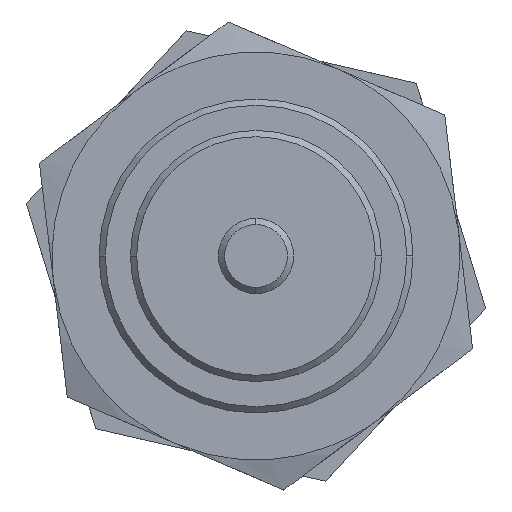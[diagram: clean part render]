
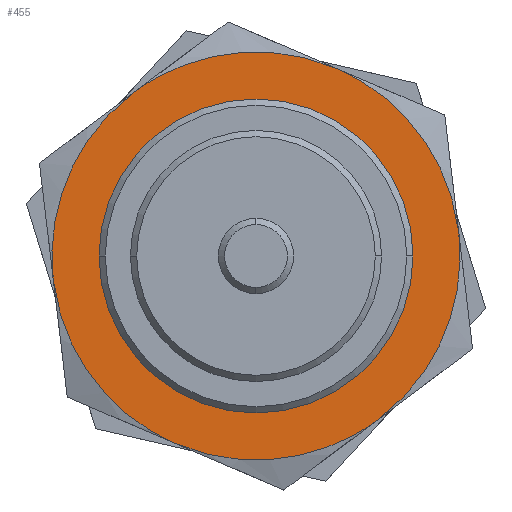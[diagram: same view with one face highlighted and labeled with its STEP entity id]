
A CAD part, left-side view. The second image highlights one B-rep face of the part: STEP entity #455.
In plain terms, the highlighted planar face has unit normal (-1, 0, 0) as drawn and (1, 0, 0) by its records, which use the part's own axes.
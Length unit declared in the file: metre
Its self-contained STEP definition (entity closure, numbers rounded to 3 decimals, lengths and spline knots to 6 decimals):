
#8 = CARTESIAN_POINT ( 'NONE',  ( 0.0015, -0.005629, -0.00325 ) ) ;
#14 = FACE_OUTER_BOUND ( 'NONE', #801, .T. ) ;
#45 = CARTESIAN_POINT ( 'NONE',  ( 0.0015, 0.005629, 0.00325 ) ) ;
#78 = CARTESIAN_POINT ( 'NONE',  ( 0.0015, 0.006819, 0.00119 ) ) ;
#79 = DIRECTION ( 'NONE',  ( 0., 0., -1. ) ) ;
#83 = CARTESIAN_POINT ( 'NONE',  ( 0.0015, 0.00444, -0.00531 ) ) ;
#92 = AXIS2_PLACEMENT_3D ( 'NONE', #229, #465, #698 ) ;
#113 = CARTESIAN_POINT ( 'NONE',  ( 0.0015, 0.005629, -0.00325 ) ) ;
#172 = ORIENTED_EDGE ( 'NONE', *, *, #508, .T. ) ;
#193 = CARTESIAN_POINT ( 'NONE',  ( 0.0015, 0.006819, -0.00119 ) ) ;
#194 = CARTESIAN_POINT ( 'NONE',  ( 0.0015, 0.004439, 0.005311 ) ) ;
#197 = CARTESIAN_POINT ( 'NONE',  ( 0.0015, 0.002379, -0.0065 ) ) ;
#219 = CIRCLE ( 'NONE', #92, 0.0045 ) ;
#229 = CARTESIAN_POINT ( 'NONE',  ( 0.0015, 0., 0. ) ) ;
#248 = VERTEX_POINT ( 'NONE', #45 ) ;
#258 =( BOUNDED_CURVE ( )  B_SPLINE_CURVE ( 3, ( #316, #193, #78, #896 ),
 .UNSPECIFIED., .F., .F. ) 
 B_SPLINE_CURVE_WITH_KNOTS ( ( 4, 4 ),
 ( 0., 0.00678 ),
 .UNSPECIFIED. ) 
 CURVE ( )  GEOMETRIC_REPRESENTATION_ITEM ( )  RATIONAL_B_SPLINE_CURVE ( ( 0.991, 0.902, 0.902, 0.991 ) ) 
 REPRESENTATION_ITEM ( '' )  );
#259 = VERTEX_POINT ( 'NONE', #271 ) ;
#271 = CARTESIAN_POINT ( 'NONE',  ( 0.0015, 0., -0.0045 ) ) ;
#291 = ORIENTED_EDGE ( 'NONE', *, *, #544, .F. ) ;
#316 = CARTESIAN_POINT ( 'NONE',  ( 0.0015, 0.005629, -0.00325 ) ) ;
#345 =( BOUNDED_CURVE ( )  B_SPLINE_CURVE ( 3, ( #1006, #197, #83, #785 ),
 .UNSPECIFIED., .F., .F. ) 
 B_SPLINE_CURVE_WITH_KNOTS ( ( 4, 4 ),
 ( 0., 0.00678 ),
 .UNSPECIFIED. ) 
 CURVE ( )  GEOMETRIC_REPRESENTATION_ITEM ( )  RATIONAL_B_SPLINE_CURVE ( ( 0.991, 0.902, 0.902, 0.991 ) ) 
 REPRESENTATION_ITEM ( '' )  );
#370 = EDGE_CURVE ( 'NONE', #996, #951, #1092, .T. ) ;
#371 = CARTESIAN_POINT ( 'NONE',  ( 0.0015, -0.005629, -0.00325 ) ) ;
#388 = EDGE_CURVE ( 'NONE', #951, #752, #345, .T. ) ;
#416 = EDGE_CURVE ( 'NONE', #752, #248, #258, .T. ) ;
#419 = PLANE ( 'NONE',  #573 ) ;
#429 =( BOUNDED_CURVE ( )  B_SPLINE_CURVE ( 3, ( #590, #1156, #710, #8 ),
 .UNSPECIFIED., .F., .T. ) 
 B_SPLINE_CURVE_WITH_KNOTS ( ( 4, 4 ),
 ( 0., 0.00678 ),
 .UNSPECIFIED. ) 
 CURVE ( )  GEOMETRIC_REPRESENTATION_ITEM ( )  RATIONAL_B_SPLINE_CURVE ( ( 0.991, 0.902, 0.902, 0.991 ) ) 
 REPRESENTATION_ITEM ( '' )  );
#455 = ADVANCED_FACE ( 'NONE', ( #941, #14 ), #419, .T. ) ;
#465 = DIRECTION ( 'NONE',  ( 1., 0., 0. ) ) ;
#488 = EDGE_CURVE ( 'NONE', #248, #1130, #863, .T. ) ;
#494 = EDGE_CURVE ( 'NONE', #1130, #563, #1221, .T. ) ;
#508 = EDGE_CURVE ( 'NONE', #563, #996, #429, .T. ) ;
#541 = CARTESIAN_POINT ( 'NONE',  ( 0.0015, 0.002378, 0.0065 ) ) ;
#544 = EDGE_CURVE ( 'NONE', #259, #679, #219, .T. ) ;
#551 = CARTESIAN_POINT ( 'NONE',  ( 0.0015, -0.002379, -0.0065 ) ) ;
#563 = VERTEX_POINT ( 'NONE', #1158 ) ;
#573 = AXIS2_PLACEMENT_3D ( 'NONE', #666, #886, #1114 ) ;
#585 = CARTESIAN_POINT ( 'NONE',  ( 0.0015, -0.005629, 0.00325 ) ) ;
#590 = CARTESIAN_POINT ( 'NONE',  ( 0.0015, -0.005629, 0.00325 ) ) ;
#597 = ORIENTED_EDGE ( 'NONE', *, *, #1091, .F. ) ;
#603 = CARTESIAN_POINT ( 'NONE',  ( 0.0015, 0., -0.0065 ) ) ;
#653 = CARTESIAN_POINT ( 'NONE',  ( 0.0015, 0., 0.0065 ) ) ;
#666 = CARTESIAN_POINT ( 'NONE',  ( 0.0015, -0.006578, 0.006578 ) ) ;
#679 = VERTEX_POINT ( 'NONE', #1187 ) ;
#698 = DIRECTION ( 'NONE',  ( 0., 0., -1. ) ) ;
#710 = CARTESIAN_POINT ( 'NONE',  ( 0.0015, -0.006819, -0.00119 ) ) ;
#752 = VERTEX_POINT ( 'NONE', #113 ) ;
#783 = DIRECTION ( 'NONE',  ( 1., 0., 0. ) ) ;
#785 = CARTESIAN_POINT ( 'NONE',  ( 0.0015, 0.005629, -0.00325 ) ) ;
#790 = ORIENTED_EDGE ( 'NONE', *, *, #370, .T. ) ;
#801 = EDGE_LOOP ( 'NONE', ( #1302, #172, #790, #1209, #875, #832 ) ) ;
#832 = ORIENTED_EDGE ( 'NONE', *, *, #488, .T. ) ;
#863 =( BOUNDED_CURVE ( )  B_SPLINE_CURVE ( 3, ( #992, #194, #541, #653 ),
 .UNSPECIFIED., .F., .F. ) 
 B_SPLINE_CURVE_WITH_KNOTS ( ( 4, 4 ),
 ( 0., 0.00678 ),
 .UNSPECIFIED. ) 
 CURVE ( )  GEOMETRIC_REPRESENTATION_ITEM ( )  RATIONAL_B_SPLINE_CURVE ( ( 0.991, 0.903, 0.903, 0.992 ) ) 
 REPRESENTATION_ITEM ( '' )  );
#875 = ORIENTED_EDGE ( 'NONE', *, *, #416, .T. ) ;
#886 = DIRECTION ( 'NONE',  ( 1., 0., 0. ) ) ;
#896 = CARTESIAN_POINT ( 'NONE',  ( 0.0015, 0.005629, 0.00325 ) ) ;
#936 = CARTESIAN_POINT ( 'NONE',  ( 0.0015, -0.00444, 0.00531 ) ) ;
#941 = FACE_BOUND ( 'NONE', #1014, .T. ) ;
#951 = VERTEX_POINT ( 'NONE', #603 ) ;
#992 = CARTESIAN_POINT ( 'NONE',  ( 0.0015, 0.005629, 0.00325 ) ) ;
#996 = VERTEX_POINT ( 'NONE', #371 ) ;
#1006 = CARTESIAN_POINT ( 'NONE',  ( 0.0015, 0., -0.0065 ) ) ;
#1014 = EDGE_LOOP ( 'NONE', ( #291, #597 ) ) ;
#1033 = CARTESIAN_POINT ( 'NONE',  ( 0.0015, -0.002379, 0.0065 ) ) ;
#1091 = EDGE_CURVE ( 'NONE', #679, #259, #1287, .T. ) ;
#1092 =( BOUNDED_CURVE ( )  B_SPLINE_CURVE ( 3, ( #1443, #1342, #551, #1238 ),
 .UNSPECIFIED., .F., .F. ) 
 B_SPLINE_CURVE_WITH_KNOTS ( ( 4, 4 ),
 ( 0., 0.00678 ),
 .UNSPECIFIED. ) 
 CURVE ( )  GEOMETRIC_REPRESENTATION_ITEM ( )  RATIONAL_B_SPLINE_CURVE ( ( 0.991, 0.902, 0.902, 0.991 ) ) 
 REPRESENTATION_ITEM ( '' )  );
#1104 = AXIS2_PLACEMENT_3D ( 'NONE', #1434, #783, #79 ) ;
#1114 = DIRECTION ( 'NONE',  ( 0., 0., -1. ) ) ;
#1130 = VERTEX_POINT ( 'NONE', #1337 ) ;
#1141 = CARTESIAN_POINT ( 'NONE',  ( 0.0015, 0., 0.0065 ) ) ;
#1156 = CARTESIAN_POINT ( 'NONE',  ( 0.0015, -0.006819, 0.00119 ) ) ;
#1158 = CARTESIAN_POINT ( 'NONE',  ( 0.0015, -0.005629, 0.00325 ) ) ;
#1187 = CARTESIAN_POINT ( 'NONE',  ( 0.0015, 0., 0.0045 ) ) ;
#1209 = ORIENTED_EDGE ( 'NONE', *, *, #388, .T. ) ;
#1221 =( BOUNDED_CURVE ( )  B_SPLINE_CURVE ( 3, ( #1141, #1033, #936, #585 ),
 .UNSPECIFIED., .F., .F. ) 
 B_SPLINE_CURVE_WITH_KNOTS ( ( 4, 4 ),
 ( 0., 0.00678 ),
 .UNSPECIFIED. ) 
 CURVE ( )  GEOMETRIC_REPRESENTATION_ITEM ( )  RATIONAL_B_SPLINE_CURVE ( ( 0.991, 0.902, 0.902, 0.991 ) ) 
 REPRESENTATION_ITEM ( '' )  );
#1238 = CARTESIAN_POINT ( 'NONE',  ( 0.0015, 0., -0.0065 ) ) ;
#1287 = CIRCLE ( 'NONE', #1104, 0.0045 ) ;
#1302 = ORIENTED_EDGE ( 'NONE', *, *, #494, .T. ) ;
#1337 = CARTESIAN_POINT ( 'NONE',  ( 0.0015, 0., 0.0065 ) ) ;
#1342 = CARTESIAN_POINT ( 'NONE',  ( 0.0015, -0.00444, -0.00531 ) ) ;
#1434 = CARTESIAN_POINT ( 'NONE',  ( 0.0015, 0., 0. ) ) ;
#1443 = CARTESIAN_POINT ( 'NONE',  ( 0.0015, -0.005629, -0.00325 ) ) ;
